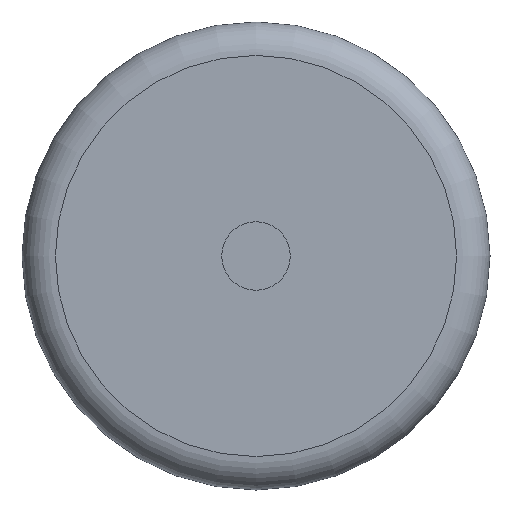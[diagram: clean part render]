
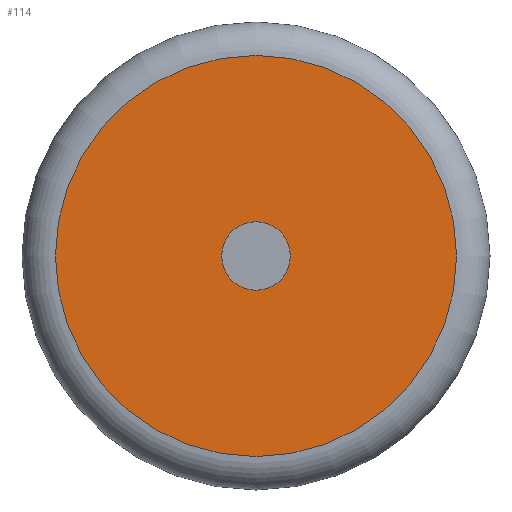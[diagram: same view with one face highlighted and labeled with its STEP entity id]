
A CAD part, left-side view. The second image highlights one B-rep face of the part: STEP entity #114.
In plain terms, the highlighted planar face has unit normal (-1, 0, 0).
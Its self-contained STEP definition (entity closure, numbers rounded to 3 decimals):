
#30=ORIENTED_EDGE('',*,*,#47,.T.);
#31=ORIENTED_EDGE('',*,*,#46,.F.);
#46=EDGE_CURVE('',#55,#55,#64,.T.);
#47=EDGE_CURVE('',#56,#56,#65,.T.);
#55=VERTEX_POINT('',#202);
#56=VERTEX_POINT('',#205);
#64=CIRCLE('',#139,20.5);
#65=CIRCLE('',#141,120.);
#75=EDGE_LOOP('',(#30));
#76=EDGE_LOOP('',(#31));
#93=FACE_BOUND('',#75,.T.);
#94=FACE_BOUND('',#76,.T.);
#109=PLANE('',#140);
#114=ADVANCED_FACE('',(#93,#94),#109,.T.);
#139=AXIS2_PLACEMENT_3D('',#201,#165,#166);
#140=AXIS2_PLACEMENT_3D('',#203,#167,#168);
#141=AXIS2_PLACEMENT_3D('',#204,#169,#170);
#165=DIRECTION('',(-1.,0.,0.));
#166=DIRECTION('',(0.,0.,1.));
#167=DIRECTION('',(-1.,0.,0.));
#168=DIRECTION('',(0.,0.,1.));
#169=DIRECTION('',(-1.,0.,0.));
#170=DIRECTION('',(0.,0.,1.));
#201=CARTESIAN_POINT('',(-88.5,0.,0.));
#202=CARTESIAN_POINT('',(-88.5,0.,20.5));
#203=CARTESIAN_POINT('',(-88.5,0.,120.));
#204=CARTESIAN_POINT('',(-88.5,0.,0.));
#205=CARTESIAN_POINT('',(-88.5,0.,120.));
